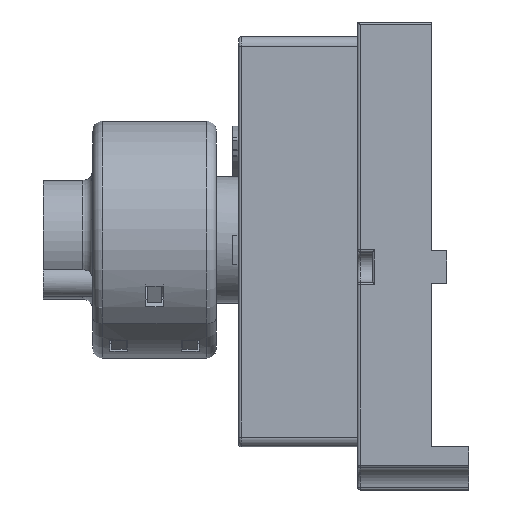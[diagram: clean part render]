
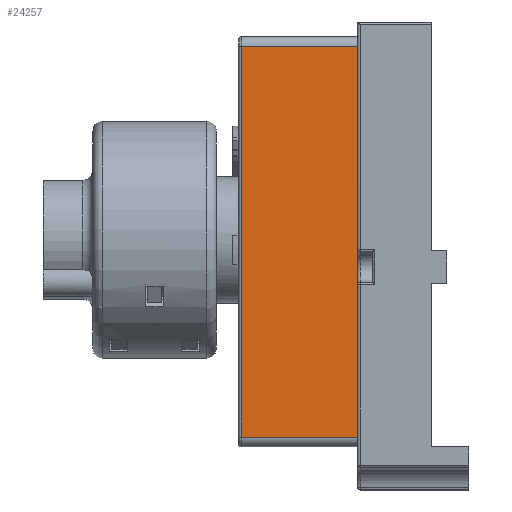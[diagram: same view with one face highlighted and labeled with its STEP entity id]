
A CAD part, left-side view. The second image highlights one B-rep face of the part: STEP entity #24257.
In plain terms, the highlighted planar face has unit normal (-1, 0, 0).
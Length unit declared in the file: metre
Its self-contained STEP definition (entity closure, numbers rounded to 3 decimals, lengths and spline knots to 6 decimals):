
#12639=DIRECTION('',(0.,0.,1.));
#12640=VECTOR('',#12639,0.0788);
#12641=CARTESIAN_POINT('',(0.0075,0.046,-0.0838));
#12642=LINE('',#12641,#12640);
#12776=DIRECTION('',(0.,0.,-1.));
#12777=VECTOR('',#12776,0.0788);
#12778=CARTESIAN_POINT('',(0.0075,0.0225,-0.005));
#12779=LINE('',#12778,#12777);
#17378=DIRECTION('',(0.,-1.,0.));
#17379=VECTOR('',#17378,0.0235);
#17380=CARTESIAN_POINT('',(0.0075,0.046,-0.005));
#17381=LINE('',#17380,#17379);
#17382=DIRECTION('',(0.,1.,0.));
#17383=VECTOR('',#17382,0.0235);
#17384=CARTESIAN_POINT('',(0.0075,0.0225,-0.0838));
#17385=LINE('',#17384,#17383);
#17692=CARTESIAN_POINT('',(0.0075,0.0225,-0.0838));
#17694=VERTEX_POINT('',#17692);
#17818=CARTESIAN_POINT('',(0.0075,0.046,-0.0838));
#17819=VERTEX_POINT('',#17818);
#17820=CARTESIAN_POINT('',(0.0075,0.046,-0.005));
#17821=VERTEX_POINT('',#17820);
#17978=CARTESIAN_POINT('',(0.0075,0.0225,-0.005));
#17979=VERTEX_POINT('',#17978);
#24245=CARTESIAN_POINT('',(0.0075,0.02,-0.0858));
#24246=DIRECTION('',(1.,0.,0.));
#24247=DIRECTION('',(0.,0.,-1.));
#24248=AXIS2_PLACEMENT_3D('',#24245,#24246,#24247);
#24249=PLANE('',#24248);
#24250=ORIENTED_EDGE('',*,*,#24239,.T.);
#24251=ORIENTED_EDGE('',*,*,#19048,.T.);
#24253=ORIENTED_EDGE('',*,*,#24252,.T.);
#24254=ORIENTED_EDGE('',*,*,#18919,.T.);
#24255=EDGE_LOOP('',(#24250,#24251,#24253,#24254));
#24256=FACE_OUTER_BOUND('',#24255,.F.);
#24257=ADVANCED_FACE('',(#24256),#24249,.F.);
#18919=EDGE_CURVE('',#17819,#17821,#12642,.T.);
#19048=EDGE_CURVE('',#17979,#17694,#12779,.T.);
#24239=EDGE_CURVE('',#17821,#17979,#17381,.T.);
#24252=EDGE_CURVE('',#17694,#17819,#17385,.T.);
